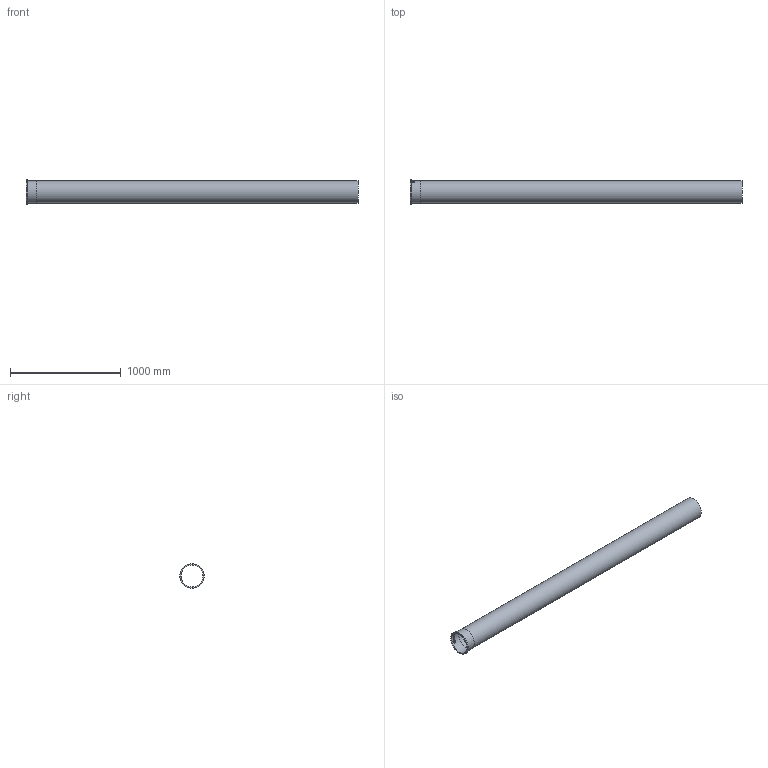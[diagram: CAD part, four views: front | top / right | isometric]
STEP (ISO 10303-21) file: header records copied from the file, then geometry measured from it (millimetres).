
FILE_DESCRIPTION((''),'2;1');
FILE_NAME('I:\WATTS\3D_CAD\3D_CAD_Models\Blucher_Drains\P_StraightPipe\WebsiteFiles\3D\STEP\P8-9.8-316.stp','2009-12-03T09:14:05',('menesek'),(''),'Autodesk Inventor 2010','Autodesk Inventor 2010','');
FILE_SCHEMA(('AUTOMOTIVE_DESIGN { 1 0 10303 214 1 1 1 1 }'));
Length unit declared in the file: inch
Products named in the file (1): P8-9.8-316
Bounding box: 3000 x 218.95 x 218.95 mm (x, y, z)
Volume: 2918408.8 mm3; surface area: 3754536.8 mm2
Topology: 1 solids, 1 shells, 109 faces, 285 edges, 190 vertices
Faces by surface type: plane 59, bspline 34, cylinder 16
Full cylindrical faces by diameter (mm): 196.85 x1, 199.898 x1, 200.914 x2, 218.948 x1
Entity records: 14215 total; most frequent: CARTESIAN_POINT 11837, ORIENTED_EDGE 548, DIRECTION 356, EDGE_CURVE 274, VERTEX_POINT 186, EDGE_LOOP 128, AXIS2_PLACEMENT_3D 120, VECTOR 116
